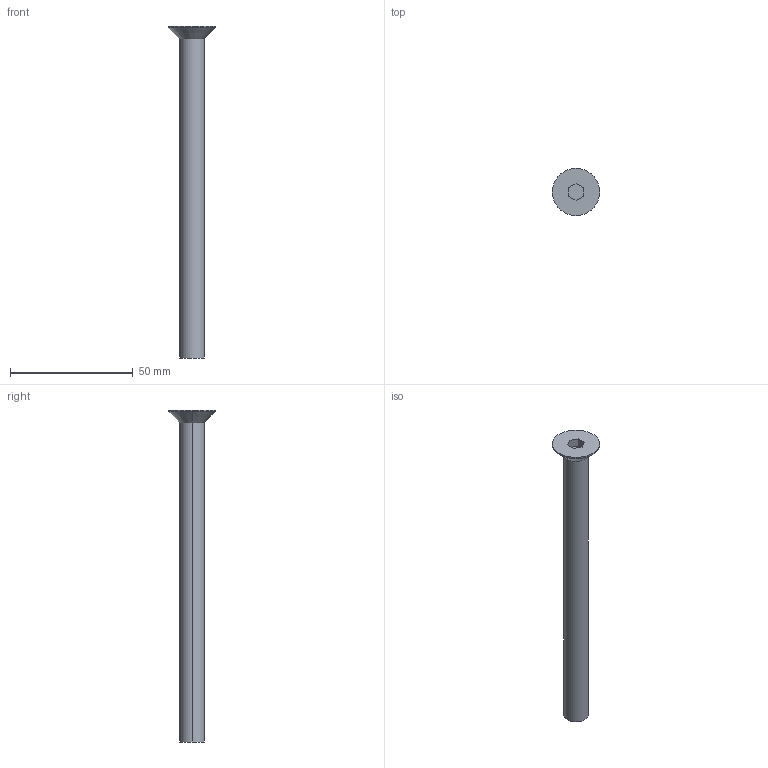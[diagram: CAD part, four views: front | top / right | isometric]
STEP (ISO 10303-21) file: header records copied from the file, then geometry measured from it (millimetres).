
FILE_DESCRIPTION (( 'STEP AP214' ), '1' );
FILE_NAME ('COUNTERSHUNK_HEAD_BOLT_M10(L=130).STEP', '2021-09-18T10:25:23', ( '' ), ( '' ), 'SwSTEP 2.0', 'SolidWorks 2018', '' );
FILE_SCHEMA (( 'AUTOMOTIVE_DESIGN' ));
Length unit declared in the file: millimetre
Products named in the file (1): COUNTERSHUNK_HEAD_BOLT_M10(L=130)
Bounding box: 19.22 x 19.22 x 135.22 mm (x, y, z)
Volume: 11073.4 mm3; surface area: 4863.6 mm2
Topology: 1 solids, 1 shells, 15 faces, 32 edges, 20 vertices
Faces by surface type: plane 9, cylinder 4, cone 2
Entity records: 436 total; most frequent: DIRECTION 72, CARTESIAN_POINT 68, ORIENTED_EDGE 64, EDGE_CURVE 32, LINE 24, AXIS2_PLACEMENT_3D 24, VECTOR 24, VERTEX_POINT 20
